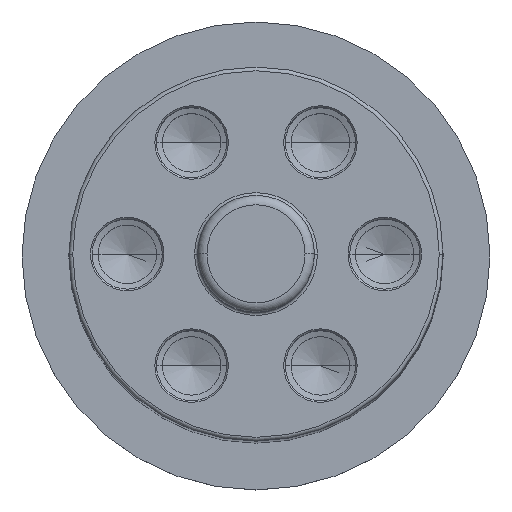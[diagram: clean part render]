
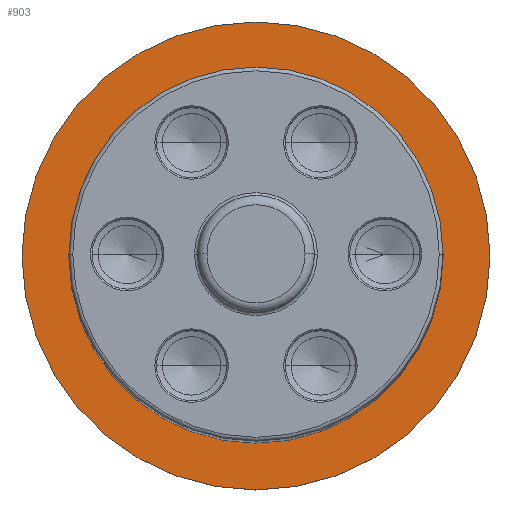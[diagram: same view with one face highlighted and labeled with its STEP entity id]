
A CAD part, top view. The second image highlights one B-rep face of the part: STEP entity #903.
In plain terms, the highlighted planar face has unit normal (0, 0, 1).
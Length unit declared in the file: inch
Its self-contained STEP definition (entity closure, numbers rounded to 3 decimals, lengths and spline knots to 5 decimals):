
#62 = CARTESIAN_POINT ( 'NONE',  ( 1.25, 0., -5.875 ) ) ;
#896 = EDGE_LOOP ( 'NONE', ( #905, #904 ) ) ;
#898 = VERTEX_POINT ( 'NONE', #2541 ) ;
#903 = ADVANCED_FACE ( 'NONE', ( #2549, #2538 ), #2550, .T. ) ;
#904 = ORIENTED_EDGE ( 'NONE', *, *, #1006, .T. ) ;
#905 = ORIENTED_EDGE ( 'NONE', *, *, #977, .T. ) ;
#957 = EDGE_CURVE ( 'NONE', #976, #984, #2597, .T. ) ;
#967 = ORIENTED_EDGE ( 'NONE', *, *, #957, .F. ) ;
#969 = EDGE_CURVE ( 'NONE', #984, #976, #2580, .T. ) ;
#976 = VERTEX_POINT ( 'NONE', #2685 ) ;
#977 = EDGE_CURVE ( 'NONE', #898, #1010, #2680, .T. ) ;
#982 = ORIENTED_EDGE ( 'NONE', *, *, #969, .F. ) ;
#984 = VERTEX_POINT ( 'NONE', #2681 ) ;
#998 = EDGE_LOOP ( 'NONE', ( #982, #967 ) ) ;
#1006 = EDGE_CURVE ( 'NONE', #1010, #898, #2705, .T. ) ;
#1010 = VERTEX_POINT ( 'NONE', #62 ) ;
#2525 = DIRECTION ( 'NONE',  ( 1., 0., 0. ) ) ;
#2529 = CARTESIAN_POINT ( 'NONE',  ( 0., 0., -5.875 ) ) ;
#2534 = DIRECTION ( 'NONE',  ( 0., 0., 1. ) ) ;
#2538 = FACE_BOUND ( 'NONE', #998, .T. ) ;
#2541 = CARTESIAN_POINT ( 'NONE',  ( -1.25, 0., -5.875 ) ) ;
#2549 = FACE_OUTER_BOUND ( 'NONE', #896, .T. ) ;
#2550 = PLANE ( 'NONE',  #2552 ) ;
#2552 = AXIS2_PLACEMENT_3D ( 'NONE', #2529, #2534, #2525 ) ;
#2580 = CIRCLE ( 'NONE', #2593, 1. ) ;
#2586 = CARTESIAN_POINT ( 'NONE',  ( 0., 0., -5.875 ) ) ;
#2587 = DIRECTION ( 'NONE',  ( 1., 0., 0. ) ) ;
#2588 = DIRECTION ( 'NONE',  ( 0., 0., 1. ) ) ;
#2589 = CARTESIAN_POINT ( 'NONE',  ( 0., 0., -5.875 ) ) ;
#2593 = AXIS2_PLACEMENT_3D ( 'NONE', #2586, #2683, #2682 ) ;
#2597 = CIRCLE ( 'NONE', #2603, 1. ) ;
#2603 = AXIS2_PLACEMENT_3D ( 'NONE', #2589, #2588, #2587 ) ;
#2676 = DIRECTION ( 'NONE',  ( 1., 0., 0. ) ) ;
#2677 = DIRECTION ( 'NONE',  ( 0., 0., 1. ) ) ;
#2678 = CARTESIAN_POINT ( 'NONE',  ( 0., 0., -5.875 ) ) ;
#2679 = AXIS2_PLACEMENT_3D ( 'NONE', #2678, #2677, #2676 ) ;
#2680 = CIRCLE ( 'NONE', #2679, 1.25 ) ;
#2681 = CARTESIAN_POINT ( 'NONE',  ( -1., 0., -5.875 ) ) ;
#2682 = DIRECTION ( 'NONE',  ( 1., 0., 0. ) ) ;
#2683 = DIRECTION ( 'NONE',  ( 0., 0., 1. ) ) ;
#2685 = CARTESIAN_POINT ( 'NONE',  ( 1., 0., -5.875 ) ) ;
#2705 = CIRCLE ( 'NONE', #2747, 1.25 ) ;
#2719 = CARTESIAN_POINT ( 'NONE',  ( 0., 0., -5.875 ) ) ;
#2720 = DIRECTION ( 'NONE',  ( 0., 0., 1. ) ) ;
#2746 = DIRECTION ( 'NONE',  ( 1., 0., 0. ) ) ;
#2747 = AXIS2_PLACEMENT_3D ( 'NONE', #2719, #2720, #2746 ) ;
